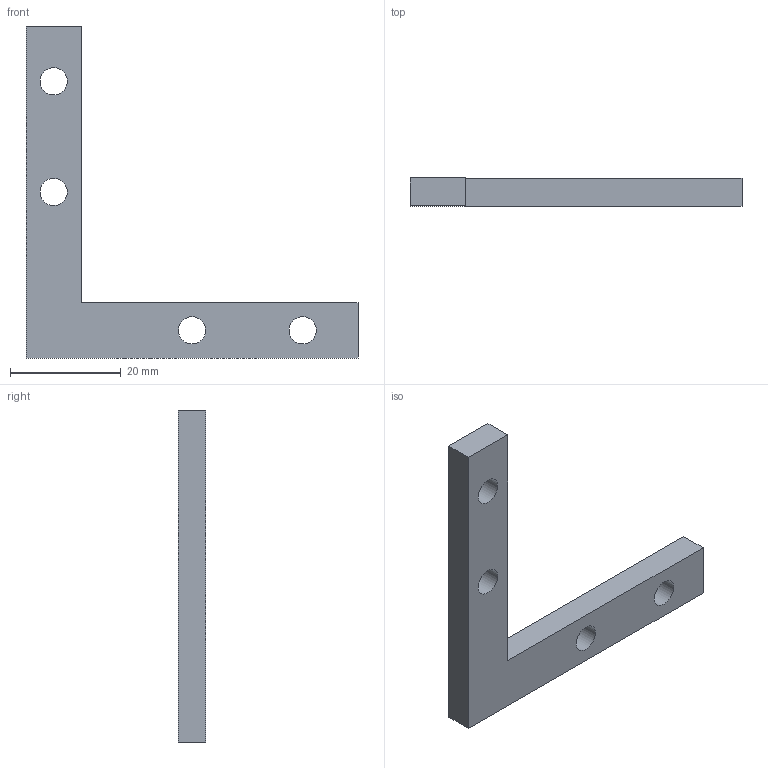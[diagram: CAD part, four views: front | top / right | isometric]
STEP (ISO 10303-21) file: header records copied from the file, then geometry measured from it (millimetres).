
FILE_DESCRIPTION(/* description */ ('Unknown'),/* implementation_level */ '2;1');
FILE_NAME(/* name */ 'TLP0660',/* time_stamp */ '2026-09-29T09:07:02+08:00',/* author */ ('Unknown'),/* organization */ ('Unknown'),/* preprocessor_version */ 'ST-DEVELOPER v16.7',/* originating_system */ 'DEX',/* authorisation */ $);
FILE_SCHEMA (('AUTOMOTIVE_DESIGN {1 0 10303 214 3 1 1}'));
Length unit declared in the file: millimetre
Products named in the file (1): TLP0660
Bounding box: 60 x 5 x 60 mm (x, y, z)
Volume: 5120.2 mm3; surface area: 3557 mm2
Topology: 1 solids, 1 shells, 12 faces, 34 edges, 24 vertices
Faces by surface type: plane 8, cylinder 4
Full cylindrical faces by diameter (mm): 4.917 x4
Entity records: 466 total; most frequent: DIRECTION 60, CARTESIAN_POINT 59, ORIENTED_EDGE 52, EDGE_CURVE 26, EDGE_LOOP 24, FACE_BOUND 24, AXIS2_PLACEMENT_3D 21, VERTEX_POINT 20
